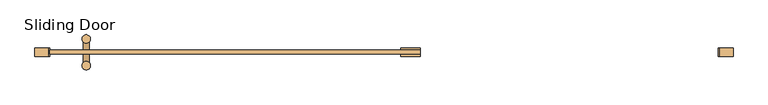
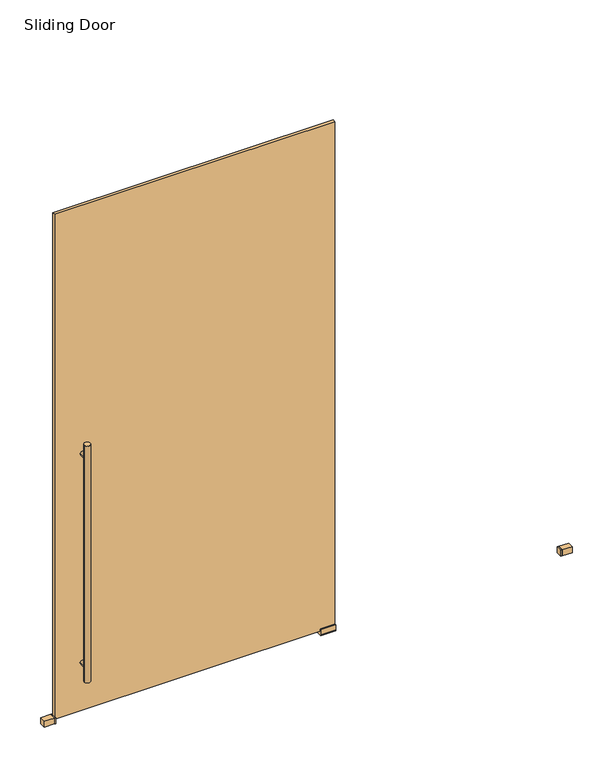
"""IFC4 building model written with IfcOpenShell, lengths in millimetres: door geometry, 2019_EN_Panel_Klein_Nature_Single-Door : Sliding Door."""

from ifc_helpers import new_model, si_unit, point, frame, frame_2d, origin, origin_with_axes, place, context, project, spatial, polyline, circle_curve, trimmed, segment, composite_curve, outline, extrude, source, transform, mapped, element, save


def sliding_door_ae4269e6(model_context):
    return source(origin(), model_context, "Body", "SweptSolid", [
        extrude(outline(polyline([(-559.9999999, -5.7), (559.9999999, -5.7), (559.9999999, -17.7), (-559.9999999, -17.7), (-559.9999999, -5.7)])), frame((0.0, 0.0, 15.0), z_axis=(0.0, 0.0, 1.0), x_axis=(1.0, 0.0, 0.0)), (0.0, 0.0, 1.0), 2133.1000015),
        extrude(outline(polyline([(-604.9999999, 0.8), (-564.9999999, 0.8), (-564.9999999, -24.2), (-604.9999999, -24.2), (-604.9999999, 0.8)])), origin_with_axes(), (0.0, 0.0, 1.0), 25.0),
        extrude(outline(polyline([(1464.9999998, 0.8), (1504.9999998, 0.8), (1504.9999998, -24.2), (1464.9999998, -24.2), (1464.9999998, 0.8)])), origin_with_axes(), (0.0, 0.0, 1.0), 25.0),
        extrude(outline(polyline([(-5.7, 25.0), (0.8, 25.0), (0.8, 5.0), (-0.2, 5.0), (-0.2, 0.0), (-23.2, 0.0), (-23.2, 5.0), (-24.2, 5.0), (-24.2, 25.0), (-17.7, 25.0), (-17.7, 15.0), (-5.7, 15.0), (-5.7, 25.0)])), frame((499.9999999, 0.0, 0.0), z_axis=(1.0, 0.0, 0.0), x_axis=(0.0, 1.0, 0.0)), (0.0, 0.0, 1.0), 60.0),
        extrude(outline(polyline([(-559.9999999, 0.8), (-559.9999999, -24.2), (-564.9999999, -24.2), (-564.9999999, 0.8), (-559.9999999, 0.8)])), origin_with_axes(), (0.0, 0.0, 1.0), 25.0),
        extrude(outline(polyline([(1459.9999998, -24.2), (1459.9999998, 0.8), (1464.9999998, 0.8), (1464.9999998, -24.2), (1459.9999998, -24.2)])), origin_with_axes(), (0.0, 0.0, 1.0), 25.0),
        extrude(outline(composite_curve([segment(trimmed(circle_curve(frame_2d((1100.55, -449.9999999)), 8.5), [point((1100.55, -441.4999999))], [point((1100.55, -458.4999999))], False, "CARTESIAN"), True, "CONTINUOUS"), segment(trimmed(circle_curve(frame_2d((1100.55, -449.9999999)), 8.5), [point((1100.55, -458.4999999))], [point((1100.55, -441.4999999))], False, "CARTESIAN"), True, "CONTINUOUS")], self_intersect=False)), frame((0.0, -52.2, 0.0), z_axis=(0.0, 1.0, 0.0), x_axis=(0.0, 0.0, 1.0)), (0.0, 0.0, 1.0), 82.0),
        extrude(outline(composite_curve([segment(trimmed(circle_curve(frame_2d((217.55, -449.9999999)), 8.5), [point((217.55, -441.4999999))], [point((217.55, -458.4999999))], False, "CARTESIAN"), True, "CONTINUOUS"), segment(trimmed(circle_curve(frame_2d((217.55, -449.9999999)), 8.5), [point((217.55, -458.4999999))], [point((217.55, -441.4999999))], False, "CARTESIAN"), True, "CONTINUOUS")], self_intersect=False)), frame((0.0, -52.2, 0.0), z_axis=(0.0, 1.0, 0.0), x_axis=(0.0, 0.0, 1.0)), (0.0, 0.0, 1.0), 82.0),
        extrude(outline(composite_curve([segment(trimmed(circle_curve(frame_2d((-449.9999999, 28.76)), 12.7), [point((-462.6999999, 28.76))], [point((-437.2999999, 28.76))], False, "CARTESIAN"), True, "CONTINUOUS"), segment(trimmed(circle_curve(frame_2d((-449.9999999, 28.76)), 12.7), [point((-437.2999999, 28.76))], [point((-462.6999999, 28.76))], False, "CARTESIAN"), True, "CONTINUOUS")], self_intersect=False)), frame((0.0, 0.0, 159.05), z_axis=(0.0, 0.0, 1.0), x_axis=(1.0, 0.0, 0.0)), (0.0, 0.0, 1.0), 1000.0),
        extrude(outline(composite_curve([segment(trimmed(circle_curve(frame_2d((-449.9999999, -52.16)), 12.7), [point((-462.6999999, -52.16))], [point((-437.2999999, -52.16))], False, "CARTESIAN"), True, "CONTINUOUS"), segment(trimmed(circle_curve(frame_2d((-449.9999999, -52.16)), 12.7), [point((-437.2999999, -52.16))], [point((-462.6999999, -52.16))], False, "CARTESIAN"), True, "CONTINUOUS")], self_intersect=False)), frame((0.0, 0.0, 159.05), z_axis=(0.0, 0.0, 1.0), x_axis=(1.0, 0.0, 0.0)), (0.0, 0.0, 1.0), 1000.0),
    ])


if __name__ == "__main__":
    model = new_model("IFC4")
    model_context = context("Model", 3, world=origin())
    ifc_project = project(units=[si_unit("LENGTHUNIT", "METRE", prefix="MILLI")], contexts=[model_context])
    site = spatial("IfcSite", under=ifc_project)
    building = spatial("IfcBuilding", under=site)
    placement = place(None, origin())
    sliding_door_shape = sliding_door_ae4269e6(model_context)
    element("IfcDoor", 1, ObjectType="2019_EN_Panel_Klein_Nature_Single-Door : Sliding Door", at=placement, inside=building, context=model_context, shape_type="MappedRepresentation", body=[
        mapped(sliding_door_shape, transform((0.0, 0.0, 0.0), x_axis=(1.0, 0.0, 0.0), y_axis=(0.0, 1.0, 0.0), z_axis=(0.0, 0.0, 1.0))),
    ])
    save(model, "model.ifc")
